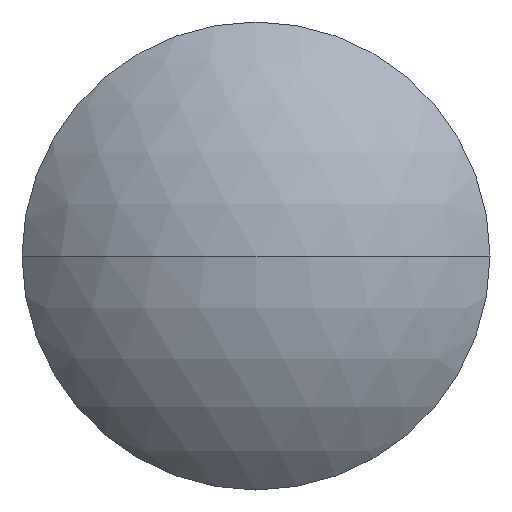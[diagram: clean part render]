
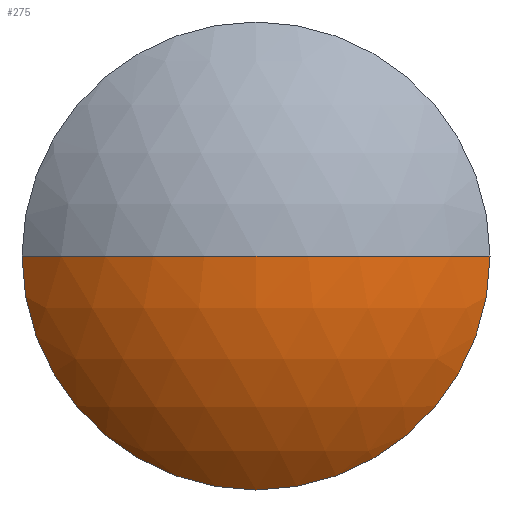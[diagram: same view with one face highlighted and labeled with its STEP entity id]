
A CAD part, left-side view. The second image highlights one B-rep face of the part: STEP entity #275.
In plain terms, the highlighted spherical face has radius 27.779 mm.
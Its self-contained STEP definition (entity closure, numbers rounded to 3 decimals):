
#3 = DIRECTION ( 'NONE',  ( 0., 0., -1. ) ) ;
#22 = CARTESIAN_POINT ( 'NONE',  ( -2.5, 0., 0. ) ) ;
#23 = EDGE_CURVE ( 'NONE', #150, #228, #182, .T. ) ;
#27 = CARTESIAN_POINT ( 'NONE',  ( -2.5, -20., 0. ) ) ;
#33 = DIRECTION ( 'NONE',  ( 0., 1., 0. ) ) ;
#53 = CIRCLE ( 'NONE', #89, 20. ) ;
#56 = CARTESIAN_POINT ( 'NONE',  ( -2.5, 0., -20. ) ) ;
#57 = FACE_OUTER_BOUND ( 'NONE', #119, .T. ) ;
#58 = AXIS2_PLACEMENT_3D ( 'NONE', #233, #103, #263 ) ;
#72 = VERTEX_POINT ( 'NONE', #130 ) ;
#74 = ORIENTED_EDGE ( 'NONE', *, *, #23, .T. ) ;
#75 = CIRCLE ( 'NONE', #312, 27.779 ) ;
#86 = SPHERICAL_SURFACE ( 'NONE', #335, 27.779 ) ;
#89 = AXIS2_PLACEMENT_3D ( 'NONE', #286, #104, #317 ) ;
#92 = EDGE_CURVE ( 'NONE', #228, #72, #346, .T. ) ;
#99 = VERTEX_POINT ( 'NONE', #314 ) ;
#100 = DIRECTION ( 'NONE',  ( 0., 0., 1. ) ) ;
#103 = DIRECTION ( 'NONE',  ( 0., 0., -1. ) ) ;
#104 = DIRECTION ( 'NONE',  ( -1., 0., 0. ) ) ;
#119 = EDGE_LOOP ( 'NONE', ( #305, #74, #226, #251 ) ) ;
#130 = CARTESIAN_POINT ( 'NONE',  ( -11., 0., 0. ) ) ;
#131 = DIRECTION ( 'NONE',  ( -1., 0., 0. ) ) ;
#132 = EDGE_CURVE ( 'NONE', #99, #72, #75, .T. ) ;
#137 = AXIS2_PLACEMENT_3D ( 'NONE', #22, #131, #316 ) ;
#150 = VERTEX_POINT ( 'NONE', #56 ) ;
#166 = EDGE_CURVE ( 'NONE', #99, #150, #53, .T. ) ;
#182 = CIRCLE ( 'NONE', #137, 20. ) ;
#226 = ORIENTED_EDGE ( 'NONE', *, *, #92, .T. ) ;
#228 = VERTEX_POINT ( 'NONE', #27 ) ;
#233 = CARTESIAN_POINT ( 'NONE',  ( 16.779, 0., 0. ) ) ;
#251 = ORIENTED_EDGE ( 'NONE', *, *, #132, .F. ) ;
#262 = DIRECTION ( 'NONE',  ( 1., 0., 0. ) ) ;
#263 = DIRECTION ( 'NONE',  ( 0., 1., 0. ) ) ;
#275 = ADVANCED_FACE ( 'NONE', ( #57 ), #86, .T. ) ;
#286 = CARTESIAN_POINT ( 'NONE',  ( -2.5, 0., 0. ) ) ;
#288 = CARTESIAN_POINT ( 'NONE',  ( 16.779, 0., 0. ) ) ;
#305 = ORIENTED_EDGE ( 'NONE', *, *, #166, .T. ) ;
#312 = AXIS2_PLACEMENT_3D ( 'NONE', #288, #100, #262 ) ;
#314 = CARTESIAN_POINT ( 'NONE',  ( -2.5, 20., 0. ) ) ;
#316 = DIRECTION ( 'NONE',  ( 0., 0., 1. ) ) ;
#317 = DIRECTION ( 'NONE',  ( 0., 0., 1. ) ) ;
#323 = CARTESIAN_POINT ( 'NONE',  ( 16.779, 0., 0. ) ) ;
#335 = AXIS2_PLACEMENT_3D ( 'NONE', #323, #3, #33 ) ;
#346 = CIRCLE ( 'NONE', #58, 27.779 ) ;
